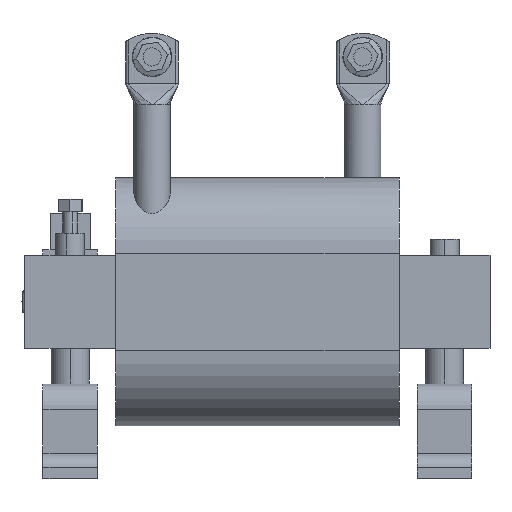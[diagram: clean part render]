
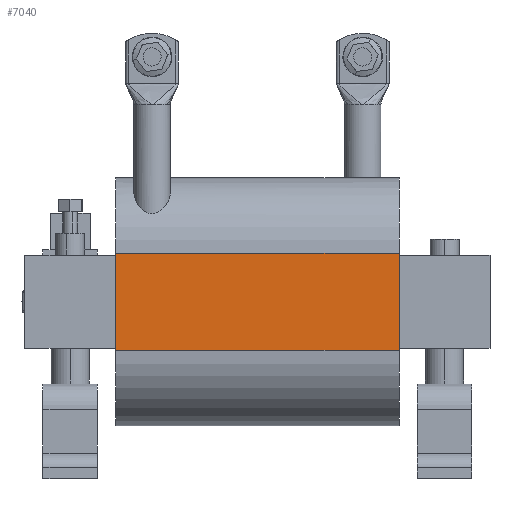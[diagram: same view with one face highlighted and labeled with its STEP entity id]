
A CAD part, left-side view. The second image highlights one B-rep face of the part: STEP entity #7040.
In plain terms, the highlighted planar face has unit normal (-1, 0, 0).
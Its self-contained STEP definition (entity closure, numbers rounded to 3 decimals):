
#3002 = DIRECTION ( 'NONE',  ( 0., 0., -1. ) ) ;
#3231 = LINE ( 'NONE', #9934, #18570 ) ;
#3315 = CARTESIAN_POINT ( 'NONE',  ( -144.75, 206., 26.75 ) ) ;
#3594 = VERTEX_POINT ( 'NONE', #20957 ) ;
#3595 = LINE ( 'NONE', #15259, #12051 ) ;
#4435 = VECTOR ( 'NONE', #20122, 1000. ) ;
#5084 = CARTESIAN_POINT ( 'NONE',  ( -144.75, 206., -26.75 ) ) ;
#6412 = PLANE ( 'NONE',  #9980 ) ;
#7040 = ADVANCED_FACE ( 'NONE', ( #9707 ), #6412, .F. ) ;
#7827 = ORIENTED_EDGE ( 'NONE', *, *, #14544, .F. ) ;
#7977 = EDGE_CURVE ( 'NONE', #15589, #9272, #20815, .T. ) ;
#8948 = DIRECTION ( 'NONE',  ( 0., -1., 0. ) ) ;
#9272 = VERTEX_POINT ( 'NONE', #18786 ) ;
#9373 = CARTESIAN_POINT ( 'NONE',  ( -144.75, 206., -26.75 ) ) ;
#9392 = EDGE_LOOP ( 'NONE', ( #19727, #12043, #7827, #17698 ) ) ;
#9707 = FACE_OUTER_BOUND ( 'NONE', #9392, .T. ) ;
#9849 = EDGE_CURVE ( 'NONE', #3594, #9272, #3231, .T. ) ;
#9934 = CARTESIAN_POINT ( 'NONE',  ( -144.75, 50., -26.75 ) ) ;
#9980 = AXIS2_PLACEMENT_3D ( 'NONE', #16734, #11374, #3002 ) ;
#10721 = VECTOR ( 'NONE', #8948, 1000. ) ;
#11374 = DIRECTION ( 'NONE',  ( 1., 0., 0. ) ) ;
#12043 = ORIENTED_EDGE ( 'NONE', *, *, #7977, .F. ) ;
#12051 = VECTOR ( 'NONE', #20288, 1000. ) ;
#14544 = EDGE_CURVE ( 'NONE', #15356, #15589, #17045, .T. ) ;
#15259 = CARTESIAN_POINT ( 'NONE',  ( -144.75, 206., -26.75 ) ) ;
#15356 = VERTEX_POINT ( 'NONE', #9373 ) ;
#15589 = VERTEX_POINT ( 'NONE', #3315 ) ;
#16637 = DIRECTION ( 'NONE',  ( 0., 0., 1. ) ) ;
#16734 = CARTESIAN_POINT ( 'NONE',  ( -144.75, 206., -26.75 ) ) ;
#17045 = LINE ( 'NONE', #5084, #4435 ) ;
#17404 = CARTESIAN_POINT ( 'NONE',  ( -144.75, 206., 26.75 ) ) ;
#17698 = ORIENTED_EDGE ( 'NONE', *, *, #21255, .T. ) ;
#18570 = VECTOR ( 'NONE', #16637, 1000. ) ;
#18786 = CARTESIAN_POINT ( 'NONE',  ( -144.75, 50., 26.75 ) ) ;
#19727 = ORIENTED_EDGE ( 'NONE', *, *, #9849, .T. ) ;
#20122 = DIRECTION ( 'NONE',  ( 0., 0., 1. ) ) ;
#20288 = DIRECTION ( 'NONE',  ( 0., -1., 0. ) ) ;
#20815 = LINE ( 'NONE', #17404, #10721 ) ;
#20957 = CARTESIAN_POINT ( 'NONE',  ( -144.75, 50., -26.75 ) ) ;
#21255 = EDGE_CURVE ( 'NONE', #15356, #3594, #3595, .T. ) ;
